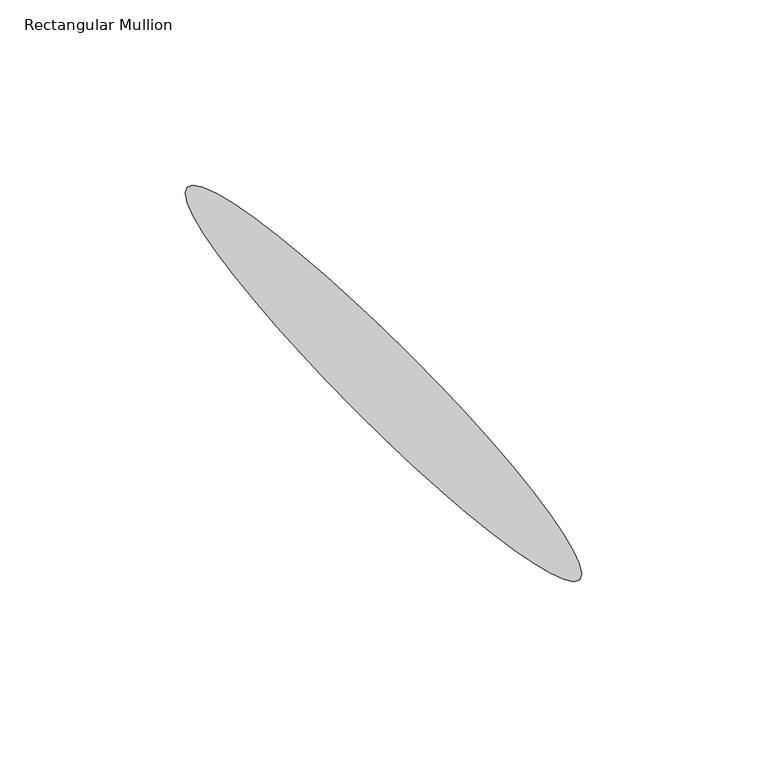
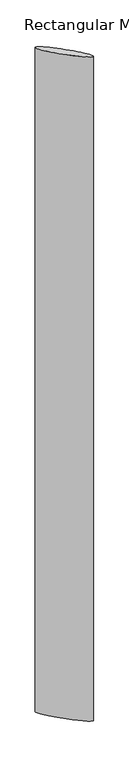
"""IFC4 building model written with IfcOpenShell, lengths in millimetres: member geometry, Rectangular Mullion : RSen_21_CWM_blade - 150 CF_gen_duco projects."""

from ifc_helpers import new_model, si_unit, point, frame, origin, place, context, project, spatial, ellipse_curve, trimmed, source, transform, mapped, element, save
from ifc_brep_helpers import plane_surface, extruded_surface, advanced_brep


def rectangular_mullion_8734c8a8(model_context):
    return source(origin(), model_context, "Body", "AdvancedBrep", [
        advanced_brep(
        [(53.0330086, 1.9669914, 0.0), (-53.0330086, 108.0330086, 0.0), (53.0330086, 1.9669914, -2000.0), (-53.0330086, 108.0330086, -2000.0)],
        [
            (0, 1, ellipse_curve(frame((0.0, 55.0, 0.0), z_axis=(0.0, 0.0, 1.0000000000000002), x_axis=(-0.7071067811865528, 0.7071067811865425, 0.0)), 75.0, 10.5)),
            (1, 0, ellipse_curve(frame((0.0, 55.0, 0.0), z_axis=(0.0, 0.0, 1.0000000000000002), x_axis=(-0.7071067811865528, 0.7071067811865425, 0.0)), 75.0, 10.5)),
            (2, 3, ellipse_curve(frame((0.0, 55.0, -2000.0), z_axis=(0.0, 0.0, -1.0000000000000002), x_axis=(-0.7071067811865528, 0.7071067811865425, 0.0)), 75.0, 10.5)),
            (3, 2, ellipse_curve(frame((0.0, 55.0, -2000.0), z_axis=(0.0, 0.0, -1.0000000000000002), x_axis=(-0.7071067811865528, 0.7071067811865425, 0.0)), 75.0, 10.5)),
            (0, 2),
            (3, 1),
        ],
        [
            plane_surface(frame((0.0, -120.3479578, 0.0), z_axis=(0.0, 0.0, 1.0), x_axis=(-1.0, 0.0, 0.0))),
            plane_surface(frame((0.0, -120.3479578, -2000.0), z_axis=(0.0, 0.0, -1.0), x_axis=(-1.0, 0.0, 0.0))),
            extruded_surface(trimmed(ellipse_curve(frame((0.0, 55.0, -2000.0), z_axis=(0.0, 0.0, 1.0000000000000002), x_axis=(-0.7071067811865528, 0.7071067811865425, 0.0)), 75.0, 10.5), [point((53.0330086, 1.9669914, -2000.0))], [point((-53.0330086, 108.0330086, -2000.0))], True, "CARTESIAN"), (0.0, 0.0, 2000.0), 2000.0),
            extruded_surface(trimmed(ellipse_curve(frame((0.0, 55.0, -2000.0), z_axis=(0.0, 0.0, 1.0000000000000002), x_axis=(-0.7071067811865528, 0.7071067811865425, 0.0)), 75.0, 10.5), [point((-53.0330086, 108.0330086, -2000.0))], [point((53.0330086, 1.9669914, -2000.0))], True, "CARTESIAN"), (0.0, 0.0, 2000.0), 2000.0),
        ],
        [
            (0, [[1, 2]]),
            (1, [[3, 4]]),
            (2, [[-1, 5, -4, 6]]),
            (3, [[-2, -6, -3, -5]]),
        ],
    ),
    ])


if __name__ == "__main__":
    model = new_model("IFC4")
    model_context = context("Model", 3, world=origin())
    ifc_project = project(units=[si_unit("LENGTHUNIT", "METRE", prefix="MILLI")], contexts=[model_context])
    site = spatial("IfcSite", under=ifc_project)
    building = spatial("IfcBuilding", under=site)
    placement = place(None, origin())
    rectangular_mullion_shape = rectangular_mullion_8734c8a8(model_context)
    element("IfcMember", 1, ObjectType="Rectangular Mullion : RSen_21_CWM_blade - 150 CF_gen_duco projects", at=placement, inside=building, context=model_context, shape_type="MappedRepresentation", body=[
        mapped(rectangular_mullion_shape, transform((0.0, 0.0, 0.0), x_axis=(1.0, 0.0, 0.0), y_axis=(0.0, 1.0, 0.0), z_axis=(0.0, 0.0, 1.0))),
    ])
    save(model, "model.ifc")
